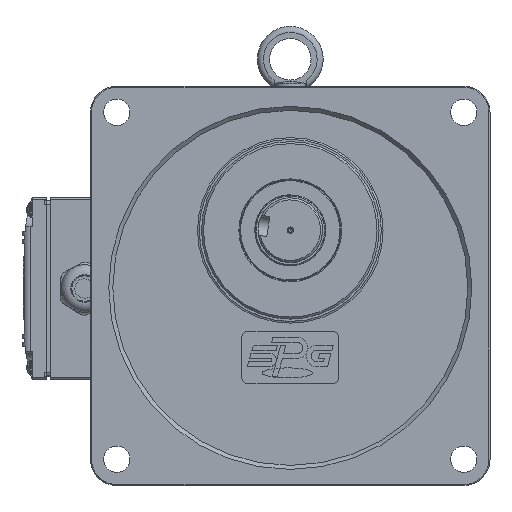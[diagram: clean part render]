
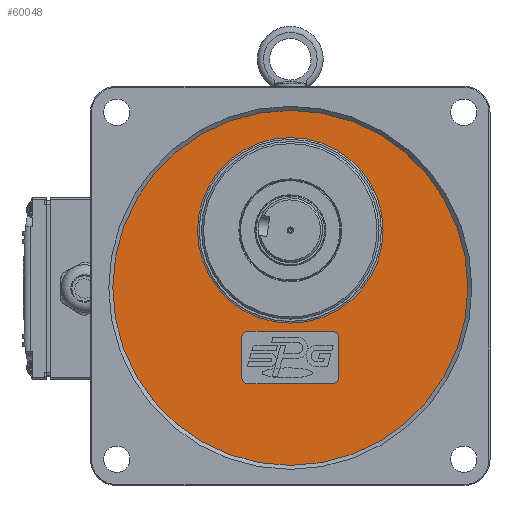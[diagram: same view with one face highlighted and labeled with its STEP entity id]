
A CAD part, top view. The second image highlights one B-rep face of the part: STEP entity #60048.
In plain terms, the highlighted planar face has unit normal (0, 0, 1).
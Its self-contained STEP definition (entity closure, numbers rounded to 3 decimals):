
#995=FACE_BOUND('',#14964,.T.);
#996=FACE_BOUND('',#14965,.T.);
#1719=PLANE('',#65741);
#3890=LINE('',#132498,#6714);
#3891=LINE('',#132502,#6715);
#3892=LINE('',#132506,#6716);
#3893=LINE('',#132510,#6717);
#6714=VECTOR('',#78523,10.);
#6715=VECTOR('',#78526,10.);
#6716=VECTOR('',#78529,10.);
#6717=VECTOR('',#78532,10.);
#11222=FACE_OUTER_BOUND('',#14963,.T.);
#14963=EDGE_LOOP('',(#48294));
#14964=EDGE_LOOP('',(#48295,#48296,#48297,#48298,#48299,#48300,#48301,#48302));
#14965=EDGE_LOOP('',(#48303));
#18793=CIRCLE('',#65739,46.);
#18795=CIRCLE('',#65742,88.);
#18796=CIRCLE('',#65743,3.);
#18797=CIRCLE('',#65744,3.);
#18798=CIRCLE('',#65745,3.);
#18799=CIRCLE('',#65746,3.);
#25890=VERTEX_POINT('',#132490);
#25891=VERTEX_POINT('',#132494);
#25892=VERTEX_POINT('',#132496);
#25893=VERTEX_POINT('',#132497);
#25894=VERTEX_POINT('',#132499);
#25895=VERTEX_POINT('',#132501);
#25896=VERTEX_POINT('',#132503);
#25897=VERTEX_POINT('',#132505);
#25898=VERTEX_POINT('',#132507);
#25899=VERTEX_POINT('',#132509);
#33617=EDGE_CURVE('',#25890,#25890,#18793,.T.);
#33619=EDGE_CURVE('',#25891,#25891,#18795,.T.);
#33620=EDGE_CURVE('',#25892,#25893,#3890,.T.);
#33621=EDGE_CURVE('',#25894,#25893,#18796,.T.);
#33622=EDGE_CURVE('',#25894,#25895,#3891,.T.);
#33623=EDGE_CURVE('',#25896,#25895,#18797,.T.);
#33624=EDGE_CURVE('',#25896,#25897,#3892,.T.);
#33625=EDGE_CURVE('',#25898,#25897,#18798,.T.);
#33626=EDGE_CURVE('',#25898,#25899,#3893,.T.);
#33627=EDGE_CURVE('',#25892,#25899,#18799,.T.);
#48294=ORIENTED_EDGE('',*,*,#33619,.T.);
#48295=ORIENTED_EDGE('',*,*,#33620,.T.);
#48296=ORIENTED_EDGE('',*,*,#33621,.F.);
#48297=ORIENTED_EDGE('',*,*,#33622,.T.);
#48298=ORIENTED_EDGE('',*,*,#33623,.F.);
#48299=ORIENTED_EDGE('',*,*,#33624,.T.);
#48300=ORIENTED_EDGE('',*,*,#33625,.F.);
#48301=ORIENTED_EDGE('',*,*,#33626,.T.);
#48302=ORIENTED_EDGE('',*,*,#33627,.F.);
#48303=ORIENTED_EDGE('',*,*,#33617,.F.);
#60048=ADVANCED_FACE('',(#11222,#995,#996),#1719,.F.);
#65739=AXIS2_PLACEMENT_3D('',#132491,#78515,#78516);
#65741=AXIS2_PLACEMENT_3D('',#132493,#78519,#78520);
#65742=AXIS2_PLACEMENT_3D('',#132495,#78521,#78522);
#65743=AXIS2_PLACEMENT_3D('',#132500,#78524,#78525);
#65744=AXIS2_PLACEMENT_3D('',#132504,#78527,#78528);
#65745=AXIS2_PLACEMENT_3D('',#132508,#78530,#78531);
#65746=AXIS2_PLACEMENT_3D('',#132511,#78533,#78534);
#78515=DIRECTION('center_axis',(0.,0.,1.));
#78516=DIRECTION('ref_axis',(-1.,0.,0.));
#78519=DIRECTION('center_axis',(0.,0.,-1.));
#78520=DIRECTION('ref_axis',(-1.,0.,0.));
#78521=DIRECTION('center_axis',(0.,0.,1.));
#78522=DIRECTION('ref_axis',(-1.,0.,0.));
#78523=DIRECTION('',(0.,1.,0.));
#78524=DIRECTION('center_axis',(0.,0.,1.));
#78525=DIRECTION('ref_axis',(-0.707,0.707,0.));
#78526=DIRECTION('',(1.,0.,0.));
#78527=DIRECTION('center_axis',(0.,0.,1.));
#78528=DIRECTION('ref_axis',(0.707,0.707,0.));
#78529=DIRECTION('',(0.,-1.,0.));
#78530=DIRECTION('center_axis',(0.,0.,1.));
#78531=DIRECTION('ref_axis',(0.707,-0.707,0.));
#78532=DIRECTION('',(-1.,0.,0.));
#78533=DIRECTION('center_axis',(0.,0.,1.));
#78534=DIRECTION('ref_axis',(-0.707,-0.707,0.));
#132490=CARTESIAN_POINT('',(-84.165,-5.106,43.));
#132491=CARTESIAN_POINT('Origin',(-38.165,-5.106,43.));
#132493=CARTESIAN_POINT('Origin',(-38.165,-33.606,43.));
#132494=CARTESIAN_POINT('',(49.835,-33.606,43.));
#132495=CARTESIAN_POINT('Origin',(-38.165,-33.606,43.));
#132496=CARTESIAN_POINT('',(-62.165,-78.106,43.));
#132497=CARTESIAN_POINT('',(-62.165,-58.106,43.));
#132498=CARTESIAN_POINT('',(-62.165,-44.356,43.));
#132499=CARTESIAN_POINT('',(-59.165,-55.106,43.));
#132500=CARTESIAN_POINT('Origin',(-59.165,-58.106,43.));
#132501=CARTESIAN_POINT('',(-17.165,-55.106,43.));
#132502=CARTESIAN_POINT('',(-26.165,-55.106,43.));
#132503=CARTESIAN_POINT('',(-14.165,-58.106,43.));
#132504=CARTESIAN_POINT('Origin',(-17.165,-58.106,43.));
#132505=CARTESIAN_POINT('',(-14.165,-78.106,43.));
#132506=CARTESIAN_POINT('',(-14.165,-57.356,43.));
#132507=CARTESIAN_POINT('',(-17.165,-81.106,43.));
#132508=CARTESIAN_POINT('Origin',(-17.165,-78.106,43.));
#132509=CARTESIAN_POINT('',(-59.165,-81.106,43.));
#132510=CARTESIAN_POINT('',(-50.165,-81.106,43.));
#132511=CARTESIAN_POINT('Origin',(-59.165,-78.106,43.));
